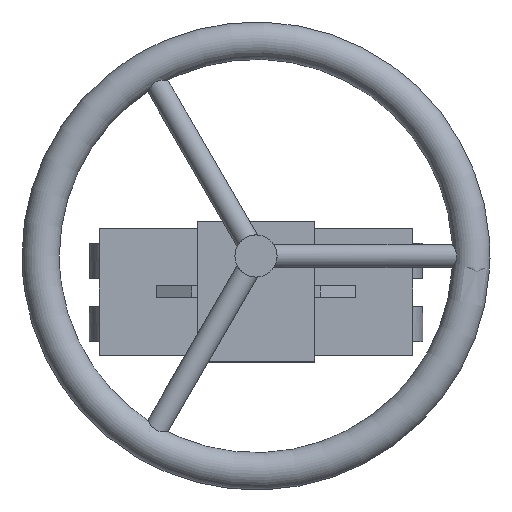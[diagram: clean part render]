
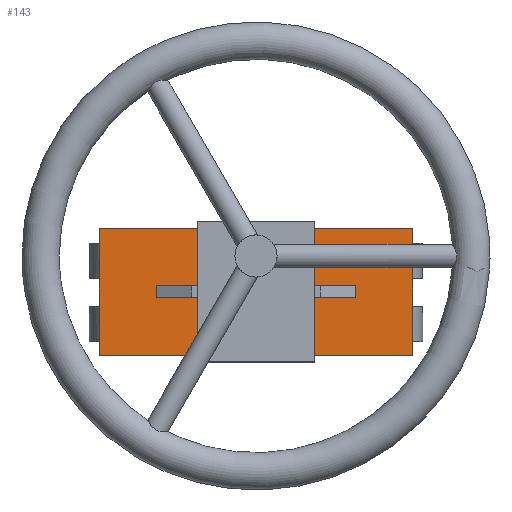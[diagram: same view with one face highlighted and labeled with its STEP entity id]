
A CAD part, top view. The second image highlights one B-rep face of the part: STEP entity #143.
In plain terms, the highlighted planar face has unit normal (0, 0, 1).
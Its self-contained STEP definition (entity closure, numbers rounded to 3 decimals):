
#143=ADVANCED_FACE('',(#1040,#1042,#1044),#1046,.T.);
#1040=FACE_BOUND('',#1041,.T.);
#1041=EDGE_LOOP('',(#1817,#1818,#1819,#1820,#1821,#1822,#1823,#1824));
#1042=FACE_BOUND('',#1043,.T.);
#1043=EDGE_LOOP('',(#1825,#1826,#1827,#1828));
#1044=FACE_BOUND('',#1045,.T.);
#1045=EDGE_LOOP('',(#1829));
#1046=PLANE('',#1047);
#1047=AXIS2_PLACEMENT_3D('',#1048,#1049,#1050);
#1048=CARTESIAN_POINT('',(0.,0.,105.));
#1049=DIRECTION('',(0.,0.,1.));
#1050=DIRECTION('',(1.,0.,0.));
#1817=ORIENTED_EDGE('',*,*,#2295,.F.);
#1818=ORIENTED_EDGE('',*,*,#2296,.T.);
#1819=ORIENTED_EDGE('',*,*,#2297,.T.);
#1820=ORIENTED_EDGE('',*,*,#2298,.T.);
#1821=ORIENTED_EDGE('',*,*,#2299,.F.);
#1822=ORIENTED_EDGE('',*,*,#2300,.T.);
#1823=ORIENTED_EDGE('',*,*,#2301,.T.);
#1824=ORIENTED_EDGE('',*,*,#2302,.T.);
#1825=ORIENTED_EDGE('',*,*,#2303,.F.);
#1826=ORIENTED_EDGE('',*,*,#2285,.F.);
#1827=ORIENTED_EDGE('',*,*,#2304,.F.);
#1828=ORIENTED_EDGE('',*,*,#2261,.F.);
#1829=ORIENTED_EDGE('',*,*,#2278,.F.);
#2261=EDGE_CURVE('',#2510,#2512,#2513,.T.);
#2278=EDGE_CURVE('',#2543,#2543,#2544,.F.);
#2285=EDGE_CURVE('',#2554,#2556,#2557,.F.);
#2295=EDGE_CURVE('',#2571,#2572,#2573,.T.);
#2296=EDGE_CURVE('',#2571,#2574,#2575,.T.);
#2297=EDGE_CURVE('',#2574,#2576,#2577,.T.);
#2298=EDGE_CURVE('',#2576,#2578,#2579,.T.);
#2299=EDGE_CURVE('',#2580,#2578,#2581,.T.);
#2300=EDGE_CURVE('',#2580,#2582,#2583,.T.);
#2301=EDGE_CURVE('',#2582,#2584,#2585,.T.);
#2302=EDGE_CURVE('',#2584,#2572,#2586,.T.);
#2303=EDGE_CURVE('',#2556,#2510,#2587,.T.);
#2304=EDGE_CURVE('',#2512,#2554,#2588,.T.);
#2510=VERTEX_POINT('',#2936);
#2512=VERTEX_POINT('',#2940);
#2513=LINE('',#2941,#2942);
#2543=VERTEX_POINT('',#3008);
#2544=CIRCLE('',#3009,9.);
#2554=VERTEX_POINT('',#3032);
#2556=VERTEX_POINT('',#3036);
#2557=LINE('',#3037,#3038);
#2571=VERTEX_POINT('',#3071);
#2572=VERTEX_POINT('',#3072);
#2573=LINE('',#3073,#3074);
#2574=VERTEX_POINT('',#3076);
#2575=LINE('',#3077,#3078);
#2576=VERTEX_POINT('',#3080);
#2577=LINE('',#3081,#3082);
#2578=VERTEX_POINT('',#3084);
#2579=LINE('',#3085,#3086);
#2580=VERTEX_POINT('',#3088);
#2581=LINE('',#3089,#3090);
#2582=VERTEX_POINT('',#3092);
#2583=LINE('',#3093,#3094);
#2584=VERTEX_POINT('',#3096);
#2585=LINE('',#3097,#3098);
#2586=LINE('',#3100,#3101);
#2587=LINE('',#3103,#3104);
#2588=LINE('',#3106,#3107);
#2936=CARTESIAN_POINT('',(-42.5,-2.5,105.));
#2940=CARTESIAN_POINT('',(42.5,-2.5,105.));
#2941=CARTESIAN_POINT('',(-42.5,-2.5,105.));
#2942=VECTOR('',#2943,1.);
#2943=DIRECTION('',(1.,0.,0.));
#3008=CARTESIAN_POINT('',(0.,24.,105.));
#3009=AXIS2_PLACEMENT_3D('',#3010,#3011,#3012);
#3010=CARTESIAN_POINT('',(0.,15.,105.));
#3011=DIRECTION('',(0.,0.,-1.));
#3012=DIRECTION('',(0.,1.,0.));
#3032=CARTESIAN_POINT('',(42.5,2.5,105.));
#3036=CARTESIAN_POINT('',(-42.5,2.5,105.));
#3037=CARTESIAN_POINT('',(-42.5,2.5,105.));
#3038=VECTOR('',#3039,1.);
#3039=DIRECTION('',(1.,0.,0.));
#3071=CARTESIAN_POINT('',(25.,-27.,105.));
#3072=CARTESIAN_POINT('',(-25.,-27.,105.));
#3073=CARTESIAN_POINT('',(25.,-27.,105.));
#3074=VECTOR('',#3075,1.);
#3075=DIRECTION('',(-1.,0.,0.));
#3076=CARTESIAN_POINT('',(67.,-27.,105.));
#3077=CARTESIAN_POINT('',(25.,-27.,105.));
#3078=VECTOR('',#3079,1.);
#3079=DIRECTION('',(1.,0.,0.));
#3080=CARTESIAN_POINT('',(67.,27.,105.));
#3081=CARTESIAN_POINT('',(67.,-27.,105.));
#3082=VECTOR('',#3083,1.);
#3083=DIRECTION('',(0.,1.,0.));
#3084=CARTESIAN_POINT('',(25.,27.,105.));
#3085=CARTESIAN_POINT('',(67.,27.,105.));
#3086=VECTOR('',#3087,1.);
#3087=DIRECTION('',(-1.,0.,0.));
#3088=CARTESIAN_POINT('',(-25.,27.,105.));
#3089=CARTESIAN_POINT('',(-25.,27.,105.));
#3090=VECTOR('',#3091,1.);
#3091=DIRECTION('',(1.,0.,0.));
#3092=CARTESIAN_POINT('',(-67.,27.,105.));
#3093=CARTESIAN_POINT('',(-25.,27.,105.));
#3094=VECTOR('',#3095,1.);
#3095=DIRECTION('',(-1.,0.,0.));
#3096=CARTESIAN_POINT('',(-67.,-27.,105.));
#3097=CARTESIAN_POINT('',(-67.,27.,105.));
#3098=VECTOR('',#3099,1.);
#3099=DIRECTION('',(0.,-1.,0.));
#3100=CARTESIAN_POINT('',(-67.,-27.,105.));
#3101=VECTOR('',#3102,1.);
#3102=DIRECTION('',(1.,0.,0.));
#3103=CARTESIAN_POINT('',(-42.5,2.5,105.));
#3104=VECTOR('',#3105,1.);
#3105=DIRECTION('',(0.,-1.,0.));
#3106=CARTESIAN_POINT('',(42.5,-2.5,105.));
#3107=VECTOR('',#3108,1.);
#3108=DIRECTION('',(0.,1.,0.));
